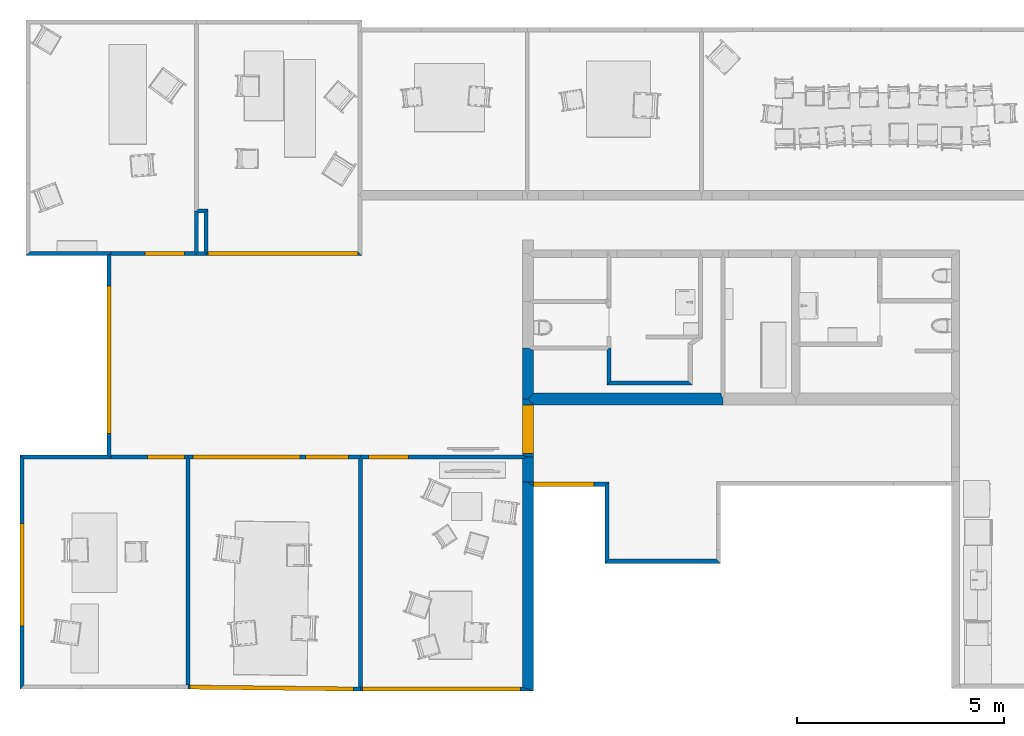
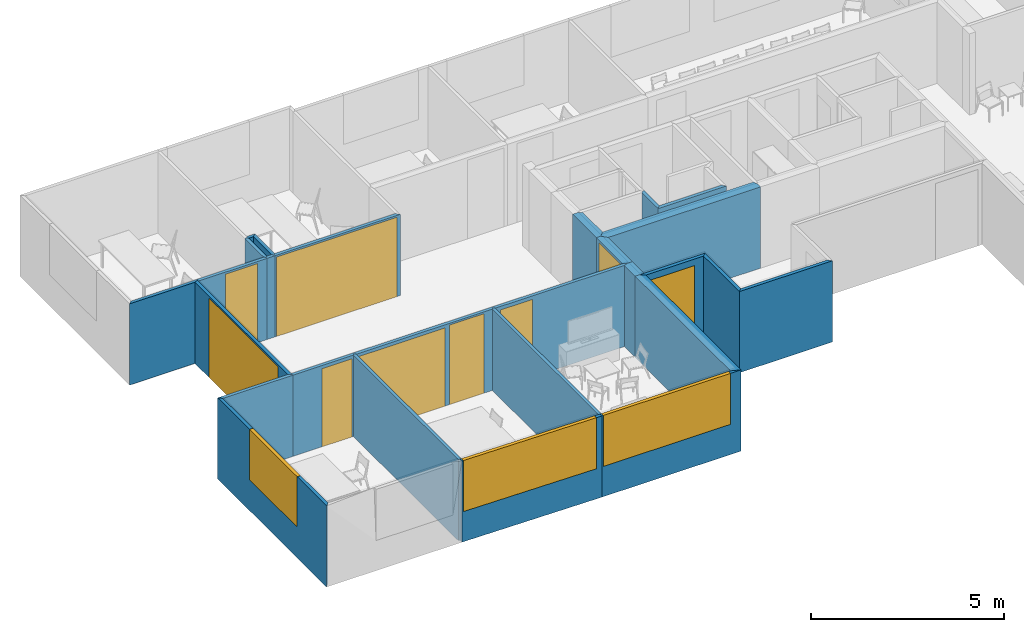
# One storey, part 2 of 26: 27 walls, 8 doors, 4 windows, 12 openings.
"""IFC2X3 building model written with IfcOpenShell, lengths in metres."""

from ifc_helpers import new_model, si_unit, direction, frame, origin_with_axes, place, context, subcontext, project, spatial, polyline, outline, extrude, type_object, element, fill, save


model = new_model("IFC2X3")

# Units and contexts
model_context = context("Model", 3, precision=1e-05, world=origin_with_axes(), true_north=direction((0.996, -0.093, 0.0)))
body_context = subcontext(model_context, "Body", "Model", "MODEL_VIEW")
ifc_project = project(units=[si_unit("AREAUNIT", "SQUARE_METRE"), si_unit("LENGTHUNIT", "METRE")], contexts=[model_context])

# Site, building, storey
site_placement = place(None, origin_with_axes())
site = spatial("IfcSite", under=ifc_project, at=site_placement, Name="Site", CompositionType="ELEMENT")
building_placement = place(site_placement, origin_with_axes())
building = spatial("IfcBuilding", under=site, at=building_placement, Name="Building", CompositionType="ELEMENT")
storey_placement = place(building_placement, frame((0.0, 0.0, 0.0500001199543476), z_axis=(0.0, 0.0, 1.0), x_axis=(1.0, 0.0, 0.0)))
storey = spatial("IfcBuildingStorey", under=building, at=storey_placement, Name="Story 0", CompositionType="ELEMENT", Elevation=0.0500000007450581)

# Walls
wall_type_1 = type_object("IfcWallType", PredefinedType="STANDARD")
wall_1_placement = place(storey_placement, frame((5.97817122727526, 0.769211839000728, 0.0), z_axis=(0.0, 0.0, 1.0), x_axis=(1.0, 0.0, 0.0)))
element("IfcWallStandardCase", 1, at=wall_1_placement, inside=storey, type_object=wall_type_1, Name="Wall", context=body_context, shape_type="SweptSolid", body=[
    extrude(outline(polyline([(0.0, 0.0), (0.046381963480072, 0.0463824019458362), (0.0927646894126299, 5.00999717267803e-08), (0.0927661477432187, -5.50465711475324), (0.0463838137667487, -5.50465702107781), (1.57606101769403e-06, -5.50410490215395), (0.0, 0.0)])), origin_with_axes(), (0.0, 0.0, 1.0), 2.57293934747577),
])
wall_type_2 = type_object("IfcWallType", PredefinedType="STANDARD")
wall_2_placement = place(storey_placement, frame((1.8127042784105, 0.769210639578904, 0.0), z_axis=(0.0, 0.0, 1.0), x_axis=(1.0, 0.0, 0.0)))
element("IfcWallStandardCase", 2, at=wall_2_placement, inside=storey, type_object=wall_type_2, Name="Wall", context=body_context, shape_type="SweptSolid", body=[
    extrude(outline(polyline([(0.0, 0.0), (0.0463823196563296, 0.0463823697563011), (0.0927645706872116, 6.08298165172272e-08), (0.0927655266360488, -5.45564046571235), (0.0463832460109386, -5.45508882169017), (9.1203446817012e-07, -5.45508872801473), (0.0, 0.0)])), origin_with_axes(), (0.0, 0.0, 1.0), 2.57293934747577),
])

# Wall, opening, window
wall_type_3 = type_object("IfcWallType", PredefinedType="STANDARD")
wall_3_placement = place(storey_placement, frame((1.85789759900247, -4.78587120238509, 0.0), z_axis=(0.0, 0.0, 1.0), x_axis=(1.0, 0.0, 0.0)))
wall_3 = element("IfcWallStandardCase", 3, at=wall_3_placement, inside=storey, type_object=wall_type_3, Name="Wall", context=body_context, shape_type="SweptSolid", body=[
    extrude(outline(polyline([(0.0, 0.0), (0.00118992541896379, 0.099993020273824), (0.047572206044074, 0.0994413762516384), (4.1202752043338, 0.0509781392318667), (4.16665744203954, 0.0504260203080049), (4.16546775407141, -0.0495670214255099), (0.0, 0.0)])), origin_with_axes(), (0.0, 0.0, 1.0), 2.57293934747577),
])
opening_1_placement = place(wall_3_placement, frame((4.00351939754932, 0.0523674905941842, 0.955976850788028), z_axis=(0.0, 0.0, 1.0), x_axis=(-0.999929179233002, 0.0118986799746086, 0.0)))
opening_1 = element("IfcOpeningElement", 4, at=opening_1_placement, cuts=wall_3, Name="OpeningElement", ObjectType="OPENING", context=body_context, shape_type="SweptSolid", body=[
    extrude(outline(polyline([(0.0, 0.0), (3.95622642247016, 0.0), (3.95622642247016, 1.61696252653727), (0.0, 1.61696252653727), (0.0, 0.0)])), frame((0.0, 0.0, 0.0), z_axis=(0.0, -1.0, 0.0), x_axis=(1.0, 0.0, 0.0)), (0.0, 0.0, -1.0), 0.10010032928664),
])
window_style_1 = type_object("IfcWindowStyle", Name="9def90fe-3763-4da9-890f-ef35a400b15d", ConstructionType="ALUMINIUM", OperationType="SINGLE_PANEL", ParameterTakesPrecedence=True, Sizeable=True)
window_1_placement = place(opening_1_placement, origin_with_axes())
window_1 = element("IfcWindow", 5, at=window_1_placement, inside=storey, type_object=window_style_1, Name="Window", OverallHeight=1.5, OverallWidth=0.5, context=body_context, shape_type="SweptSolid", body=[
    extrude(outline(polyline([(0.0, 0.0), (-3.95622617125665, 0.0), (-3.95622617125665, 1.61696243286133), (0.0, 1.61696243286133), (0.0, 0.0)])), frame((0.0, 0.10000032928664, 0.0), z_axis=(0.0, 1.0, 0.0), x_axis=(-1.0, 0.0, 0.0)), (0.0, 0.0, -1.0), 0.10000032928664),
])
fill(opening_1, window_1)

# Wall, openings, door, window
wall_type_4 = type_object("IfcWallType", PredefinedType="STANDARD")
wall_4_placement = place(storey_placement, frame((1.90546884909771, 0.76921070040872, 0.0), z_axis=(0.0, 0.0, 1.0), x_axis=(1.0, 0.0, 0.0)))
wall_4 = element("IfcWallStandardCase", 6, at=wall_4_placement, inside=storey, type_object=wall_type_4, Name="Wall", context=body_context, shape_type="SweptSolid", body=[
    extrude(outline(polyline([(0.0, 0.0), (-0.046382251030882, 0.0463823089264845), (-0.0463822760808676, 0.0927646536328), (4.11908443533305, 0.0927658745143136), (4.11908434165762, 0.0463835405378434), (4.07270237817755, 1.13859200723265e-06), (0.0, 0.0)])), origin_with_axes(), (0.0, 0.0, 1.0), 2.57293934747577),
])
opening_2_placement = place(wall_4_placement, frame((3.82737242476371, 0.0927657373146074, 0.0), z_axis=(0.0, 0.0, 1.0), x_axis=(-0.999999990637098, 0.0, 0.0)))
opening_2 = element("IfcOpeningElement", 7, at=opening_2_placement, cuts=wall_4, Name="OpeningElement", ObjectType="OPENING", context=body_context, shape_type="SweptSolid", body=[
    extrude(outline(polyline([(-8.88178419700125e-16, 0.0), (1.03013894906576, 0.0), (1.03013894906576, 2.51796555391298), (-8.88178419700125e-16, 2.51796555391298), (-8.88178419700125e-16, 0.0)])), frame((0.0, 0.0, 0.0), z_axis=(0.0, -1.0, 0.0), x_axis=(1.0, 0.0, 0.0)), (0.0, 0.0, -1.0), 0.0928646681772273),
])
opening_3_placement = place(wall_4_placement, frame((2.66170937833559, 0.0927654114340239, 0.0), z_axis=(0.0, 0.0, 1.0), x_axis=(-0.999999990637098, 0.0, 0.0)))
opening_3 = element("IfcOpeningElement", 8, at=opening_3_placement, cuts=wall_4, Name="OpeningElement", ObjectType="OPENING", context=body_context, shape_type="SweptSolid", body=[
    extrude(outline(polyline([(8.88178419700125e-16, 0.0), (2.58160086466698, 0.0), (2.58160086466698, 2.47384643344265), (8.88178419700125e-16, 2.47384643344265), (8.88178419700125e-16, 0.0)])), frame((0.0, 0.0, 0.0), z_axis=(0.0, -1.0, 0.0), x_axis=(1.0, 0.0, 0.0)), (0.0, 0.0, -1.0), 0.0928646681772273),
])
door_style_1 = type_object("IfcDoorStyle", Name="d903570f-20bc-4445-8c1d-f62e0ea8914b", ConstructionType="NOTDEFINED", OperationType="NOTDEFINED", ParameterTakesPrecedence=False, Sizeable=False)
door_1_placement = place(opening_2_placement, origin_with_axes())
door_1 = element("IfcDoor", 9, at=door_1_placement, inside=storey, type_object=door_style_1, Name="Door", OverallHeight=2.51796610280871, OverallWidth=1.03013931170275, context=body_context, shape_type="SweptSolid", body=[
    extrude(outline(polyline([(0.0, 0.0), (-1.03013882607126, 0.0), (-1.03013882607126, 2.51796550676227), (0.0, 2.51796550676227), (0.0, 0.0)])), frame((0.0, 0.0927646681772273, 0.0), z_axis=(0.0, 1.0, 0.0), x_axis=(-1.0, 0.0, 0.0)), (0.0, 0.0, -1.0), 0.0927646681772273),
])
fill(opening_2, door_1)
window_style_2 = type_object("IfcWindowStyle", Name="45d35d1c-3f3d-43ad-b62d-929d597723b6", ConstructionType="ALUMINIUM", OperationType="SINGLE_PANEL", ParameterTakesPrecedence=True, Sizeable=True)
window_2_placement = place(opening_3_placement, origin_with_axes())
window_2 = element("IfcWindow", 10, at=window_2_placement, inside=storey, type_object=window_style_2, Name="Window", OverallHeight=1.5, OverallWidth=0.5, context=body_context, shape_type="SweptSolid", body=[
    extrude(outline(polyline([(0.0, 0.0), (-2.58160055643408, 0.0), (-2.58160055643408, 2.4738463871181), (0.0, 2.4738463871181), (0.0, 0.0)])), frame((0.0, 0.0927646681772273, 0.0), z_axis=(0.0, 1.0, 0.0), x_axis=(-1.0, 0.0, 0.0)), (0.0, 0.0, -1.0), 0.0927646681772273),
])
fill(opening_3, window_2)

# Wall
wall_type_5 = type_object("IfcWallType", PredefinedType="STANDARD")
wall_5_placement = place(storey_placement, frame((9.93547135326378, 2.22077954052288, 0.0), z_axis=(0.0, 0.0, 1.0), x_axis=(1.0, 0.0, 0.0)))
element("IfcWallStandardCase", 11, at=wall_5_placement, inside=storey, type_object=wall_type_5, Name="Wall", context=body_context, shape_type="SweptSolid", body=[
    extrude(outline(polyline([(0.0, 0.0), (3.32238322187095e-07, 1.22817831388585), (0.13370936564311, 1.22817826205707), (0.267418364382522, 1.17817820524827), (0.267417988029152, 0.143047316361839), (0.133709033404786, -5.18287817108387e-08), (0.0, 0.0)])), origin_with_axes(), (0.0, 0.0, 1.0), 2.57293934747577),
])

# Wall, opening, door
wall_type_6 = type_object("IfcWallType", PredefinedType="STANDARD")
wall_6_placement = place(storey_placement, frame((9.93547260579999, 0.861977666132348, 0.0), z_axis=(0.0, 0.0, 1.0), x_axis=(1.0, 0.0, 0.0)))
wall_6 = element("IfcWallStandardCase", 12, at=wall_6_placement, inside=storey, type_object=wall_type_6, Name="Wall", context=body_context, shape_type="SweptSolid", body=[
    extrude(outline(polyline([(0.0, 0.0), (-1.25253620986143e-06, 1.35880187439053), (0.133707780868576, 1.35880182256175), (0.267416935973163, 1.21575482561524), (0.267417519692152, -0.046382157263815), (0.133708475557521, -0.0463822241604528), (0.0, 0.0)])), origin_with_axes(), (0.0, 0.0, 1.0), 2.57293934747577),
])
opening_4_placement = place(wall_6_placement, frame((0.0, 1.2157544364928, 0.0), z_axis=(0.0, 0.0, 1.0), x_axis=(0.0, -1.00000001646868, 0.0)))
opening_4 = element("IfcOpeningElement", 13, at=opening_4_placement, cuts=wall_6, Name="OpeningElement", ObjectType="OPENING", context=body_context, shape_type="SweptSolid", body=[
    extrude(outline(polyline([(1.04537418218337e-16, 0.0), (1.1796944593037, 0.0), (1.1796944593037, 2.49056469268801), (1.04537418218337e-16, 2.49056469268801), (1.04537418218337e-16, 0.0)])), frame((0.0, 0.0, 0.0), z_axis=(0.0, -1.0, 0.0), x_axis=(1.0, 0.0, 0.0)), (0.0, 0.0, -1.0), 0.267517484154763),
])
door_style_2 = type_object("IfcDoorStyle", Name="152d5451-57ad-4dc0-a88d-512f69dd789b", ConstructionType="NOTDEFINED", OperationType="NOTDEFINED", ParameterTakesPrecedence=False, Sizeable=False)
door_2_placement = place(opening_4_placement, origin_with_axes())
door_2 = element("IfcDoor", 14, at=door_2_placement, inside=storey, type_object=door_style_2, Name="Door", OverallHeight=2.49056465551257, OverallWidth=1.32274191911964, context=body_context, shape_type="SweptSolid", body=[
    extrude(outline(polyline([(-1.96825045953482e-17, 0.0), (-1.17969449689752, 0.0), (-1.17969449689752, 2.49056477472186), (-1.96825045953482e-17, 2.49056477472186), (-1.96825045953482e-17, 0.0)])), frame((0.0, 0.267417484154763, 0.0), z_axis=(0.0, 1.0, 0.0), x_axis=(-1.0, 0.0, 0.0)), (0.0, 0.0, -1.0), 0.267417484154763),
])
fill(opening_4, door_2)

wall_type_7 = type_object("IfcWallType", PredefinedType="STANDARD")
wall_7_placement = place(storey_placement, frame((2.29671680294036, 5.68250123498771, 0.0), z_axis=(0.0, 0.0, 1.0), x_axis=(1.0, 0.0, 0.0)))
wall_7 = element("IfcWallStandardCase", 15, at=wall_7_placement, inside=storey, type_object=wall_type_7, Name="Wall", context=body_context, shape_type="SweptSolid", body=[
    extrude(outline(polyline([(0.0, 0.0), (-2.50499860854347e-08, 0.0463823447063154), (0.0499999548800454, 0.0927646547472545), (3.66779485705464, 0.0927655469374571), (3.76055985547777, 1.12361594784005e-06), (0.0, 0.0)])), origin_with_axes(), (0.0, 0.0, 1.0), 2.57293934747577),
])
opening_5_placement = place(wall_7_placement, frame((0.0499999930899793, 0.0, 0.0), z_axis=(0.0, 0.0, 1.0), x_axis=(0.999999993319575, 0.0, 0.0)))
opening_5 = element("IfcOpeningElement", 16, at=opening_5_placement, cuts=wall_7, Name="OpeningElement", ObjectType="OPENING", context=body_context, shape_type="SweptSolid", body=[
    extrude(outline(polyline([(0.0, 0.0), (3.61779437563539, 0.0), (3.61779437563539, 2.51467011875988), (0.0, 2.51467011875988), (0.0, 0.0)])), frame((0.0, 0.0, 0.0), z_axis=(0.0, -1.0, 0.0), x_axis=(1.0, 0.0, 0.0)), (0.0, 0.0, -1.0), 0.0928644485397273),
])
door_style_3 = type_object("IfcDoorStyle", Name="09b9dda8-bccd-406d-9c13-eba10d9f894a", ConstructionType="NOTDEFINED", OperationType="NOTDEFINED", ParameterTakesPrecedence=False, Sizeable=False)
door_3_placement = place(opening_5_placement, origin_with_axes())
door_3 = element("IfcDoor", 17, at=door_3_placement, inside=storey, type_object=door_style_3, Name="Door", OverallHeight=2.51467080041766, OverallWidth=3.69538200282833, context=body_context, shape_type="SweptSolid", body=[
    extrude(outline(polyline([(0.0, 0.0), (-3.61779416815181, 0.0), (-3.61779416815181, 2.51467008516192), (0.0, 2.51467008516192), (0.0, 0.0)])), frame((0.0, 0.0927644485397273, 0.0), z_axis=(0.0, 1.0, 0.0), x_axis=(-1.0, 0.0, 0.0)), (0.0, 0.0, -1.0), 0.0927644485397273),
])
fill(opening_5, door_3)

wall_type_8 = type_object("IfcWallType", PredefinedType="STANDARD")
wall_8_placement = place(storey_placement, frame((-0.0952887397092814, 5.68250046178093, 0.0), z_axis=(0.0, 0.0, 1.0), x_axis=(1.0, 0.0, 0.0)))
wall_8 = element("IfcWallStandardCase", 18, at=wall_8_placement, inside=storey, type_object=wall_type_8, Name="Wall", context=body_context, shape_type="SweptSolid", body=[
    extrude(outline(polyline([(0.0, 0.0), (0.099999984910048, 0.0463822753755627), (0.100000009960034, -6.93307518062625e-08), (0.100001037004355, -4.82052578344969), (0.100001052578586, -4.86690806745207), (1.03652007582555e-06, -4.82052577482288), (0.0, 0.0)])), origin_with_axes(), (0.0, 0.0, 1.0), 2.57293934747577),
])
opening_6_placement = place(wall_8_placement, frame((0.100000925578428, -4.29847677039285, 0.0), z_axis=(0.0, 0.0, 1.0), x_axis=(0.0, 0.999999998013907, 0.0)))
opening_6 = element("IfcOpeningElement", 19, at=opening_6_placement, cuts=wall_8, Name="OpeningElement", ObjectType="OPENING", context=body_context, shape_type="SweptSolid", body=[
    extrude(outline(polyline([(8.61426320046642e-17, 0.0), (3.56464452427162, 0.0), (3.56464452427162, 2.51561017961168), (8.61426320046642e-17, 2.51561017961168), (8.61426320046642e-17, 0.0)])), frame((0.0, 0.0, 0.0), z_axis=(0.0, -1.0, 0.0), x_axis=(1.0, 0.0, 0.0)), (0.0, 0.0, -1.0), 0.100100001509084),
])
door_style_4 = type_object("IfcDoorStyle", Name="d4ae4342-756a-4c98-8677-c05b2bef1228", ConstructionType="NOTDEFINED", OperationType="NOTDEFINED", ParameterTakesPrecedence=False, Sizeable=False)
door_4_placement = place(opening_6_placement, origin_with_axes())
door_4 = element("IfcDoor", 20, at=door_4_placement, inside=storey, type_object=door_style_4, Name="Door", OverallHeight=2.51561016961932, OverallWidth=3.56464623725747, context=body_context, shape_type="SweptSolid", body=[
    extrude(outline(polyline([(6.14488910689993e-17, 0.0), (-3.56464432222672, 0.0), (-3.56464432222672, 2.51561016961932), (6.14488910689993e-17, 2.51561016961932), (6.14488910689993e-17, 0.0)])), frame((0.0, 0.100000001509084, 0.0), z_axis=(0.0, 1.0, 0.0), x_axis=(-1.0, 0.0, 0.0)), (0.0, 0.0, -1.0), 0.100000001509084),
])
fill(opening_6, door_4)

wall_type_9 = type_object("IfcWallType", PredefinedType="STANDARD")
wall_9_placement = place(storey_placement, frame((0.00471127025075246, 5.68250039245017, 0.0), z_axis=(0.0, 0.0, 1.0), x_axis=(1.0, 0.0, 0.0)))
wall_9 = element("IfcWallStandardCase", 21, at=wall_9_placement, inside=storey, type_object=wall_type_9, Name="Wall", context=body_context, shape_type="SweptSolid", body=[
    extrude(outline(polyline([(0.0, 0.0), (-2.50499858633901e-08, 0.0463823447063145), (-5.00999717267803e-08, 0.0927646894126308), (2.0129248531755, 0.0927648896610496), (2.05930713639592, 0.0463829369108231), (2.05930716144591, 5.92204507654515e-07), (0.0, 0.0)])), origin_with_axes(), (0.0, 0.0, 1.0), 2.57293934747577),
])
opening_7_placement = place(wall_9_placement, frame((0.81612193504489, 0.0, 0.0), z_axis=(0.0, 0.0, 1.0), x_axis=(1.00000000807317, 0.0, 0.0)))
opening_7 = element("IfcOpeningElement", 22, at=opening_7_placement, cuts=wall_9, Name="OpeningElement", ObjectType="OPENING", context=body_context, shape_type="SweptSolid", body=[
    extrude(outline(polyline([(0.0, 0.0), (0.95500256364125, 0.0), (0.95500256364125, 2.50740352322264), (0.0, 2.50740352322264), (0.0, 0.0)])), frame((0.0, 0.0, 0.0), z_axis=(0.0, -1.0, 0.0), x_axis=(1.0, 0.0, 0.0)), (0.0, 0.0, -1.0), 0.092864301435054),
])
door_style_5 = type_object("IfcDoorStyle", Name="418c5b8d-895f-4ccb-af9b-492501e52605", ConstructionType="NOTDEFINED", OperationType="NOTDEFINED", ParameterTakesPrecedence=False, Sizeable=False)
door_5_placement = place(opening_7_placement, origin_with_axes())
door_5 = element("IfcDoor", 23, at=door_5_placement, inside=storey, type_object=door_style_5, Name="Door", OverallHeight=2.5074042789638, OverallWidth=0.955002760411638, context=body_context, shape_type="SweptSolid", body=[
    extrude(outline(polyline([(1.11022302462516e-16, 0.0), (-0.955002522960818, 0.0), (-0.955002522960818, 2.50740356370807), (1.11022302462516e-16, 2.50740356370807), (1.11022302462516e-16, 0.0)])), frame((0.0, 0.092764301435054, 0.0), z_axis=(0.0, 1.0, 0.0), x_axis=(-1.0, 0.0, 0.0)), (0.0, 0.0, -1.0), 0.092764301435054),
])
fill(opening_7, door_5)

# Wall
wall_type_10 = type_object("IfcWallType", PredefinedType="STANDARD")
wall_10_placement = place(storey_placement, frame((2.06401855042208, 5.68250097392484, 0.0), z_axis=(0.0, 0.0, 1.0), x_axis=(1.0, 0.0, 0.0)))
element("IfcWallStandardCase", 24, at=wall_10_placement, inside=storey, type_object=wall_type_10, Name="Wall", context=body_context, shape_type="SweptSolid", body=[
    extrude(outline(polyline([(0.0, 0.0), (-1.43775404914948e-07, 0.04638235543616), (0.0463821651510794, 0.0927646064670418), (0.182698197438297, 0.0927649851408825), (0.232698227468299, 0.0463826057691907), (0.232698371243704, 2.50333030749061e-07), (0.0, 0.0)])), origin_with_axes(), (0.0, 0.0, 1.0), 2.57293934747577),
])

# Wall, opening, door
wall_type_11 = type_object("IfcWallType", PredefinedType="STANDARD")
wall_11_placement = place(storey_placement, frame((6.07093591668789, 0.769211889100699, 0.0), z_axis=(0.0, 0.0, 1.0), x_axis=(1.0, 0.0, 0.0)))
wall_11 = element("IfcWallStandardCase", 25, at=wall_11_placement, inside=storey, type_object=wall_type_11, Name="Wall", context=body_context, shape_type="SweptSolid", body=[
    extrude(outline(polyline([(0.0, 0.0), (-0.046382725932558, 0.0463823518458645), (-0.0463826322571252, 0.0927646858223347), (3.86453668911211, 0.0927657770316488), (3.99824516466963, 0.046383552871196), (3.86453650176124, 1.10907870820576e-06), (0.0, 0.0)])), origin_with_axes(), (0.0, 0.0, 1.0), 2.57293934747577),
])
opening_8_placement = place(wall_11_placement, frame((1.11289623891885, 0.0927650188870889, 0.0), z_axis=(0.0, 0.0, 1.0), x_axis=(-0.999999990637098, 0.0, 0.0)))
opening_8 = element("IfcOpeningElement", 26, at=opening_8_placement, cuts=wall_11, Name="OpeningElement", ObjectType="OPENING", context=body_context, shape_type="SweptSolid", body=[
    extrude(outline(polyline([(0.0, 0.0), (0.96571280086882, 0.0), (0.96571280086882, 2.46230315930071), (0.0, 2.46230315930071), (0.0, 0.0)])), frame((0.0, 0.0, 0.0), z_axis=(0.0, -1.0, 0.0), x_axis=(1.0, 0.0, 0.0)), (0.0, 0.0, -1.0), 0.0928647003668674),
])
door_style_6 = type_object("IfcDoorStyle", Name="3971f7c6-6641-44f8-a0ae-9cb350990f98", ConstructionType="NOTDEFINED", OperationType="NOTDEFINED", ParameterTakesPrecedence=False, Sizeable=False)
door_6_placement = place(opening_8_placement, origin_with_axes())
door_6 = element("IfcDoor", 27, at=door_6_placement, inside=storey, type_object=door_style_6, Name="Door", OverallHeight=2.46230311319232, OverallWidth=0.965714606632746, context=body_context, shape_type="SweptSolid", body=[
    extrude(outline(polyline([(8.88178419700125e-16, 0.0), (-0.965712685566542, 0.0), (-0.965712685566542, 2.46230311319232), (8.88178419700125e-16, 2.46230311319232), (8.88178419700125e-16, 0.0)])), frame((0.0, 0.0927647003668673, 0.0), z_axis=(0.0, 1.0, 0.0), x_axis=(-1.0, 0.0, 0.0)), (0.0, 0.0, -1.0), 0.0927647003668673),
])
fill(opening_8, door_6)

wall_type_12 = type_object("IfcWallType", PredefinedType="STANDARD")
wall_12_placement = place(storey_placement, frame((0.00471233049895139, 0.769210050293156, 0.0), z_axis=(0.0, 0.0, 1.0), x_axis=(1.0, 0.0, 0.0)))
wall_12 = element("IfcWallStandardCase", 28, at=wall_12_placement, inside=storey, type_object=wall_type_12, Name="Wall", context=body_context, shape_type="SweptSolid", body=[
    extrude(outline(polyline([(0.0, 0.0), (-1.76296471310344e-08, 0.0463823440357), (-3.32038780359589e-08, 0.0927646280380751), (1.85437424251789, 0.092765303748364), (1.85437426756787, 0.0463829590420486), (1.80799194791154, 5.89285747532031e-07), (0.0, 0.0)])), origin_with_axes(), (0.0, 0.0, 1.0), 2.57293934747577),
])
opening_9_placement = place(wall_12_placement, frame((1.77523096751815, 0.0927652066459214, 0.0), z_axis=(0.0, 0.0, 1.0), x_axis=(-0.999999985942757, 0.0, 0.0)))
opening_9 = element("IfcOpeningElement", 29, at=opening_9_placement, cuts=wall_12, Name="OpeningElement", ObjectType="OPENING", context=body_context, shape_type="SweptSolid", body=[
    extrude(outline(polyline([(0.0, 0.0), (0.897741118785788, 0.0), (0.897741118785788, 2.47437967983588), (0.0, 2.47437967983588), (0.0, 0.0)])), frame((0.0, 0.0, 0.0), z_axis=(0.0, -1.0, 0.0), x_axis=(1.0, 0.0, 0.0)), (0.0, 0.0, -1.0), 0.0928646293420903),
])
door_style_7 = type_object("IfcDoorStyle", Name="05413198-b5ab-4f89-b732-2c1cf1ffc1aa", ConstructionType="NOTDEFINED", OperationType="NOTDEFINED", ParameterTakesPrecedence=False, Sizeable=False)
door_7_placement = place(opening_9_placement, origin_with_axes())
door_7 = element("IfcDoor", 30, at=door_7_placement, inside=storey, type_object=door_style_7, Name="Door", OverallHeight=2.47438080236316, OverallWidth=0.897741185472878, context=body_context, shape_type="SweptSolid", body=[
    extrude(outline(polyline([(2.22044604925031e-16, 0.0), (-0.897741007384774, 0.0), (-0.897741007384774, 2.47437961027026), (2.22044604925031e-16, 2.47437961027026), (2.22044604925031e-16, 0.0)])), frame((0.0, 0.0927646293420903, 0.0), z_axis=(0.0, 1.0, 0.0), x_axis=(-1.0, 0.0, 0.0)), (0.0, 0.0, -1.0), 0.0927646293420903),
])
fill(opening_9, door_7)

# Walls
wall_type_13 = type_object("IfcWallType", PredefinedType="STANDARD")
wall_13_placement = place(storey_placement, frame((2.11040064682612, 6.70584688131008, 0.0), z_axis=(0.0, 0.0, 1.0), x_axis=(1.0, 0.0, 0.0)))
element("IfcWallStandardCase", 31, at=wall_13_placement, inside=storey, type_object=wall_type_13, Name="Wall", context=body_context, shape_type="SweptSolid", body=[
    extrude(outline(polyline([(0.0, 0.0), (-0.0463824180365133, 0.0500001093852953), (-4.93946670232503e-08, 0.100000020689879), (0.236315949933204, 0.0999998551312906), (0.136315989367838, -9.62278354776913e-08), (0.0, 0.0)])), origin_with_axes(), (0.0, 0.0, 1.0), 2.57293934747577),
])
wall_type_14 = type_object("IfcWallType", PredefinedType="STANDARD")
wall_14_placement = place(storey_placement, frame((2.24671674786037, 5.77526595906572, 0.0), z_axis=(0.0, 0.0, 1.0), x_axis=(1.0, 0.0, 0.0)))
element("IfcWallStandardCase", 32, at=wall_14_placement, inside=storey, type_object=wall_type_14, Name="Wall", context=body_context, shape_type="SweptSolid", body=[
    extrude(outline(polyline([(0.0, 0.0), (-1.11666414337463e-07, 0.93058082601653), (0.0999998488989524, 1.03058077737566), (0.100000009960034, -6.93307526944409e-08), (0.0500000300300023, -0.0463823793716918), (0.0, 0.0)])), origin_with_axes(), (0.0, 0.0, 1.0), 2.57293934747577),
])
wall_type_15 = type_object("IfcWallType", PredefinedType="STANDARD")
wall_15_placement = place(storey_placement, frame((11.9811405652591, 2.55763781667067, 0.0), z_axis=(0.0, 0.0, 1.0), x_axis=(1.0, 0.0, 0.0)))
element("IfcWallStandardCase", 33, at=wall_15_placement, inside=storey, type_object=wall_type_15, Name="Wall", context=body_context, shape_type="SweptSolid", body=[
    extrude(outline(polyline([(0.0, 0.0), (0.0927647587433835, 0.100000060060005), (1.95548245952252, 0.100000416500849), (2.05548242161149, 5.74660900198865e-07), (0.0, 0.0)])), origin_with_axes(), (0.0, 0.0, 1.0), 2.57293934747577),
])
wall_type_16 = type_object("IfcWallType", PredefinedType="STANDARD")
wall_16_placement = place(storey_placement, frame((11.9811410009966, 3.39895858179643, 0.0), z_axis=(0.0, 0.0, 1.0), x_axis=(1.0, 0.0, 0.0)))
element("IfcWallStandardCase", 34, at=wall_16_placement, inside=storey, type_object=wall_type_16, Name="Wall", context=body_context, shape_type="SweptSolid", body=[
    extrude(outline(polyline([(0.0, 0.0), (0.0463814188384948, 0.049999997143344), (0.0927637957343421, 0.050000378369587), (0.0927643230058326, -0.741320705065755), (-4.35737550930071e-07, -0.84132076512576), (0.0, 0.0)])), origin_with_axes(), (0.0, 0.0, 1.0), 2.57293934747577),
])

# Wall, opening, window
wall_type_17 = type_object("IfcWallType", PredefinedType="STANDARD")
wall_17_placement = place(storey_placement, frame((-2.19511516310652, 0.86197381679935, 0.0), z_axis=(0.0, 0.0, 1.0), x_axis=(1.0, 0.0, 0.0)))
wall_17 = element("IfcWallStandardCase", 35, at=wall_17_placement, inside=storey, type_object=wall_type_17, Name="Wall", context=body_context, shape_type="SweptSolid", body=[
    extrude(outline(polyline([(0.0, 0.0), (0.0999998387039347, -0.092764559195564), (0.10000112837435, -5.54785308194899), (1.16780898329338e-06, -5.64785303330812), (0.0, 0.0)])), origin_with_axes(), (0.0, 0.0, 1.0), 2.57293934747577),
])
opening_10_placement = place(wall_17_placement, frame((0.100000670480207, -4.12169487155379, 0.975993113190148), z_axis=(0.0, 0.0, 1.0), x_axis=(0.0, 0.999999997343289, 0.0)))
opening_10 = element("IfcOpeningElement", 36, at=opening_10_placement, cuts=wall_17, Name="OpeningElement", ObjectType="OPENING", context=body_context, shape_type="SweptSolid", body=[
    extrude(outline(polyline([(-1.33718656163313e-16, 0.0), (2.47029657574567, 0.0), (2.47029657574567, 1.59694612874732), (-1.33718656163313e-16, 1.59694612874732), (-1.33718656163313e-16, 0.0)])), frame((0.0, 0.0, 0.0), z_axis=(0.0, -1.0, 0.0), x_axis=(1.0, 0.0, 0.0)), (0.0, 0.0, -1.0), 0.100099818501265),
])
window_style_3 = type_object("IfcWindowStyle", Name="9d100e2f-6ac1-4e99-9dea-0d05cbd9887c", ConstructionType="ALUMINIUM", OperationType="SINGLE_PANEL", ParameterTakesPrecedence=True, Sizeable=True)
window_3_placement = place(opening_10_placement, origin_with_axes())
window_3 = element("IfcWindow", 37, at=window_3_placement, inside=storey, type_object=window_style_3, Name="Window", OverallHeight=1.5, OverallWidth=0.5, context=body_context, shape_type="SweptSolid", body=[
    extrude(outline(polyline([(1.29416364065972e-16, 0.0), (-2.47029659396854, 0.0), (-2.47029659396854, 1.59694612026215), (1.29416364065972e-16, 1.59694612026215), (1.29416364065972e-16, 0.0)])), frame((0.0, 0.0999998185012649, 0.0), z_axis=(0.0, 1.0, 0.0), x_axis=(-1.0, 0.0, 0.0)), (0.0, 0.0, -1.0), 0.0999998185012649),
])
fill(opening_10, window_3)

# Walls
wall_type_18 = type_object("IfcWallType", PredefinedType="STANDARD")
wall_18_placement = place(storey_placement, frame((-2.09511532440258, 0.769209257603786, 0.0), z_axis=(0.0, 0.0, 1.0), x_axis=(1.0, 0.0, 0.0)))
element("IfcWallStandardCase", 38, at=wall_18_placement, inside=storey, type_object=wall_type_18, Name="Wall", context=body_context, shape_type="SweptSolid", body=[
    extrude(outline(polyline([(0.0, 0.0), (-0.0999998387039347, 0.092764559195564), (1.99982762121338, 0.0927654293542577), (2.09982763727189, 0.0463831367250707), (2.09982765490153, 7.92689370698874e-07), (0.0, 0.0)])), origin_with_axes(), (0.0, 0.0, 1.0), 2.57293934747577),
])
wall_type_19 = type_object("IfcWallType", PredefinedType="STANDARD")
wall_19_placement = place(storey_placement, frame((10.2028895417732, 2.07773249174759, 0.0), z_axis=(0.0, 0.0, 1.0), x_axis=(1.0, 0.0, 0.0)))
element("IfcWallStandardCase", 39, at=wall_19_placement, inside=storey, type_object=wall_type_19, Name="Wall", context=body_context, shape_type="SweptSolid", body=[
    extrude(outline(polyline([(0.0, 0.0), (-0.133709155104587, 0.143046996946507), (-2.00480220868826e-07, 0.286094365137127), (4.52259809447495, 0.2860952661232), (4.57259819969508, 0.14304804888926), (4.57259829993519, 8.66320696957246e-07), (0.0, 0.0)])), origin_with_axes(), (0.0, 0.0, 1.0), 2.57293934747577),
])
wall_type_20 = type_object("IfcWallType", PredefinedType="STANDARD")
wall_20_placement = place(storey_placement, frame((-2.05416725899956, 5.68249984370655, 0.0), z_axis=(0.0, 0.0, 1.0), x_axis=(1.0, 0.0, 0.0)))
element("IfcWallStandardCase", 40, at=wall_20_placement, inside=storey, type_object=wall_type_20, Name="Wall", context=body_context, shape_type="SweptSolid", body=[
    extrude(outline(polyline([(0.0, 0.0), (0.099999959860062, 0.092764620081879), (2.05887847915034, 0.0927652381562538), (2.05887850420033, 0.0463828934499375), (1.95887851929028, 6.18074374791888e-07), (0.0, 0.0)])), origin_with_axes(), (0.0, 0.0, 1.0), 2.57293934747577),
])
wall_type_21 = type_object("IfcWallType", PredefinedType="STANDARD")
wall_21_placement = place(storey_placement, frame((2.01763612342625, 5.77526528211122, 0.0), z_axis=(0.0, 0.0, 1.0), x_axis=(1.0, 0.0, 0.0)))
element("IfcWallStandardCase", 41, at=wall_21_placement, inside=storey, type_object=wall_type_21, Name="Wall", context=body_context, shape_type="SweptSolid", body=[
    extrude(outline(polyline([(0.0, 0.0), (-2.28613115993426e-07, 0.980581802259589), (0.046382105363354, 0.980581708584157), (0.0927645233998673, 0.930581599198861), (0.0927645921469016, 2.98280655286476e-07), (0.0463822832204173, -0.0463819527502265), (0.0, 0.0)])), origin_with_axes(), (0.0, 0.0, 1.0), 2.57293934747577),
])
wall_type_22 = type_object("IfcWallType", PredefinedType="STANDARD")
wall_22_placement = place(storey_placement, frame((11.9283740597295, 0.110007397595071, 0.0), z_axis=(0.0, 0.0, 1.0), x_axis=(1.0, 0.0, 0.0)))
element("IfcWallStandardCase", 42, at=wall_22_placement, inside=storey, type_object=wall_type_22, Name="Wall", context=body_context, shape_type="SweptSolid", body=[
    extrude(outline(polyline([(0.0, 0.0), (0.100000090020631, 0.100000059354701), (0.100001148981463, -1.75760289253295), (1.06432575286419e-06, -1.85760289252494), (0.0, 0.0)])), origin_with_axes(), (0.0, 0.0, 1.0), 2.57293934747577),
])

# Wall, opening, door
wall_type_23 = type_object("IfcWallType", PredefinedType="STANDARD")
wall_23_placement = place(storey_placement, frame((10.2028901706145, 0.110006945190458, 0.0), z_axis=(0.0, 0.0, 1.0), x_axis=(1.0, 0.0, 0.0)))
wall_23 = element("IfcWallStandardCase", 43, at=wall_23_placement, inside=storey, type_object=wall_type_23, Name="Wall", context=body_context, shape_type="SweptSolid", body=[
    extrude(outline(polyline([(0.0, 0.0), (-0.133708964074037, 0.100000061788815), (6.9330750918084e-08, 0.100000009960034), (1.82548397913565, 0.100000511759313), (1.72548388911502, 4.52404612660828e-07), (0.0, 0.0)])), origin_with_axes(), (0.0, 0.0, 1.0), 2.57293934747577),
])
opening_11_placement = place(wall_23_placement, frame((1.45952136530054, 0.100000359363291, 0.0), z_axis=(0.0, 0.0, 1.0), x_axis=(-0.999999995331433, 0.0, 0.0)))
opening_11 = element("IfcOpeningElement", 44, at=opening_11_placement, cuts=wall_23, Name="OpeningElement", ObjectType="OPENING", context=body_context, shape_type="SweptSolid", body=[
    extrude(outline(polyline([(0.0, 0.0), (1.45952129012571, 0.0), (1.45952129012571, 2.3666248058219), (0.0, 2.3666248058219), (0.0, 0.0)])), frame((0.0, 0.0, 0.0), z_axis=(0.0, -1.0, 0.0), x_axis=(1.0, 0.0, 0.0)), (0.0, 0.0, -1.0), 0.100099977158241),
])
door_style_8 = type_object("IfcDoorStyle", Name="88922d4c-8c52-404a-bccc-8519b51723d7", ConstructionType="NOTDEFINED", OperationType="NOTDEFINED", ParameterTakesPrecedence=False, Sizeable=False)
door_8_placement = place(opening_11_placement, origin_with_axes())
door_8 = element("IfcDoor", 45, at=door_8_placement, inside=storey, type_object=door_style_8, Name="Door", OverallHeight=2.36662478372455, OverallWidth=1.51862482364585, context=body_context, shape_type="SweptSolid", body=[
    extrude(outline(polyline([(0.0, 0.0), (-1.4595212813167, 0.0), (-1.4595212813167, 2.36662478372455), (0.0, 2.36662478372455), (0.0, 0.0)])), frame((0.0, 0.0999999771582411, 0.0), z_axis=(0.0, 1.0, 0.0), x_axis=(-1.0, 0.0, 0.0)), (0.0, 0.0, -1.0), 0.0999999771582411),
])
fill(opening_11, door_8)

# Walls
wall_type_24 = type_object("IfcWallType", PredefinedType="STANDARD")
wall_24_placement = place(storey_placement, frame((11.9283751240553, -1.74759549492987, 0.0), z_axis=(0.0, 0.0, 1.0), x_axis=(1.0, 0.0, 0.0)))
element("IfcWallStandardCase", 46, at=wall_24_placement, inside=storey, type_object=wall_type_24, Name="Wall", context=body_context, shape_type="SweptSolid", body=[
    extrude(outline(polyline([(0.0, 0.0), (0.10000008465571, 0.0999999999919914), (2.68978914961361, 0.100000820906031), (2.78978910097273, 8.60340663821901e-07), (0.0, 0.0)])), origin_with_axes(), (0.0, 0.0, 1.0), 2.57293934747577),
])
wall_type_25 = type_object("IfcWallType", PredefinedType="STANDARD")
wall_25_placement = place(storey_placement, frame((9.93547216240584, 0.210006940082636, 0.0), z_axis=(0.0, 0.0, 1.0), x_axis=(1.0, 0.0, 0.0)))
element("IfcWallStandardCase", 47, at=wall_25_placement, inside=storey, type_object=wall_type_25, Name="Wall", context=body_context, shape_type="SweptSolid", body=[
    extrude(outline(polyline([(0.0, 0.0), (2.56043287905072e-07, 0.559206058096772), (0.133708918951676, 0.60558850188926), (0.267417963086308, 0.605588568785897), (0.267418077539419, 1.50678564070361e-08), (0.133709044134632, 6.68966376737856e-08), (0.0, 0.0)])), origin_with_axes(), (0.0, 0.0, 1.0), 2.57293934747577),
])

# Wall, opening, window
wall_type_26 = type_object("IfcWallType", PredefinedType="STANDARD")
wall_26_placement = place(storey_placement, frame((6.02455497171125, -4.83544519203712, 0.0), z_axis=(0.0, 0.0, 1.0), x_axis=(1.0, 0.0, 0.0)))
wall_26 = element("IfcWallStandardCase", 48, at=wall_26_placement, inside=storey, type_object=wall_type_26, Name="Wall", context=body_context, shape_type="SweptSolid", body=[
    extrude(outline(polyline([(0.0, 0.0), (6.93307518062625e-08, 0.100000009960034), (0.0463824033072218, 0.0999999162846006), (3.91091895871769, 0.100001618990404), (4.1783369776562, 1.74282364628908e-06), (0.0, 0.0)])), origin_with_axes(), (0.0, 0.0, 1.0), 2.57293934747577),
])
opening_12_placement = place(wall_26_placement, frame((3.86143797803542, 0.100001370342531, 0.957711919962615), z_axis=(0.0, 0.0, 1.0), x_axis=(-0.999999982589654, 0.0, 0.0)))
opening_12 = element("IfcOpeningElement", 49, at=opening_12_placement, cuts=wall_26, Name="OpeningElement", ObjectType="OPENING", context=body_context, shape_type="SweptSolid", body=[
    extrude(outline(polyline([(0.0, 0.0), (3.81505417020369, 0.0), (3.81505417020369, 1.61522739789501), (0.0, 1.61522739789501), (0.0, 0.0)])), frame((0.0, 0.0, 0.0), z_axis=(0.0, -1.0, 0.0), x_axis=(1.0, 0.0, 0.0)), (0.0, 0.0, -1.0), 0.100099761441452),
])
window_style_4 = type_object("IfcWindowStyle", Name="c5b7002b-ac47-40a5-b4b9-c2833ba0751c", ConstructionType="ALUMINIUM", OperationType="SINGLE_PANEL", ParameterTakesPrecedence=True, Sizeable=True)
window_4_placement = place(opening_12_placement, origin_with_axes())
window_4 = element("IfcWindow", 50, at=window_4_placement, inside=storey, type_object=window_style_4, Name="Window", OverallHeight=1.5, OverallWidth=0.5, context=body_context, shape_type="SweptSolid", body=[
    extrude(outline(polyline([(0.0, 0.0), (-3.81505395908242, 0.0), (-3.81505395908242, 1.61522734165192), (0.0, 1.61522734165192), (0.0, 0.0)])), frame((0.0, 0.099999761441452, 0.0), z_axis=(0.0, 1.0, 0.0), x_axis=(-1.0, 0.0, 0.0)), (0.0, 0.0, -1.0), 0.099999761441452),
])
fill(opening_12, window_4)

# Wall
wall_type_27 = type_object("IfcWallType", PredefinedType="STANDARD")
wall_27_placement = place(storey_placement, frame((9.93547216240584, 0.210006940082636, 0.0), z_axis=(0.0, 0.0, 1.0), x_axis=(1.0, 0.0, 0.0)))
element("IfcWallStandardCase", 51, at=wall_27_placement, inside=storey, type_object=wall_type_27, Name="Wall", context=body_context, shape_type="SweptSolid", body=[
    extrude(outline(polyline([(0.0, 0.0), (0.133709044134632, 6.68966376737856e-08), (0.267418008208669, -0.0999999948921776), (0.267419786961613, -5.04545038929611), (1.76802310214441e-06, -4.94545051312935), (0.0, 0.0)])), origin_with_axes(), (0.0, 0.0, 1.0), 2.57293934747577),
])

save(model, "model.ifc")
